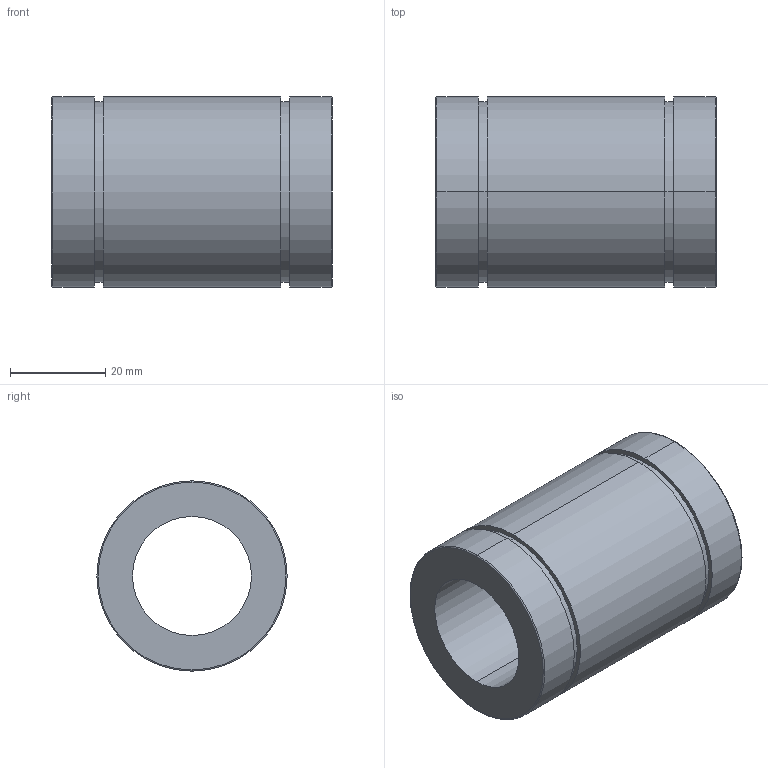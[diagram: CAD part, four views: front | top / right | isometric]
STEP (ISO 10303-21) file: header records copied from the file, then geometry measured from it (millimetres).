
FILE_DESCRIPTION (( 'STEP AP214' ), '1' );
FILE_NAME ('2.7011 Lineaarilaakeri LM25UU.STEP', '2024-06-17T07:42:28', ( '' ), ( '' ), 'SwSTEP 2.0', 'SolidWorks 2024', '' );
FILE_SCHEMA (( 'AUTOMOTIVE_DESIGN' ));
Length unit declared in the file: millimetre
Products named in the file (1): 2.7011 Lineaarilaakeri LM25UU
Bounding box: 59 x 40 x 40 mm (x, y, z)
Volume: 44723.3 mm3; surface area: 14019.4 mm2
Topology: 1 solids, 1 shells, 22 faces, 44 edges, 28 vertices
Faces by surface type: cylinder 12, plane 6, torus 4
Entity records: 615 total; most frequent: DIRECTION 122, CARTESIAN_POINT 95, ORIENTED_EDGE 88, AXIS2_PLACEMENT_3D 55, EDGE_CURVE 44, CIRCLE 32, EDGE_LOOP 28, VERTEX_POINT 28
